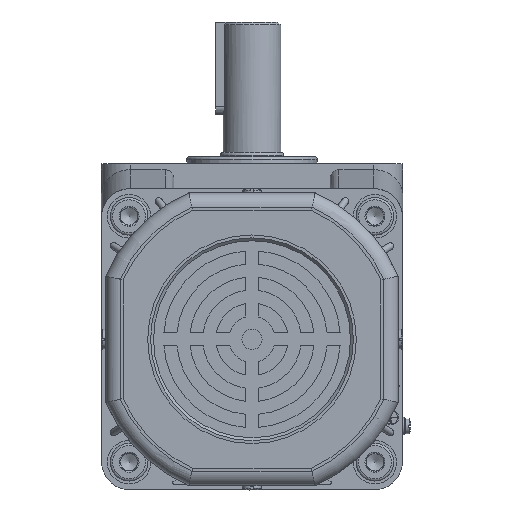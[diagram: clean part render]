
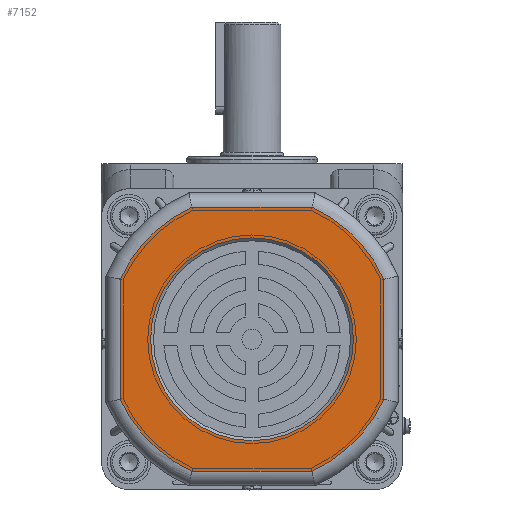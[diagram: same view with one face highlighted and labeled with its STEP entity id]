
A CAD part, left-side view. The second image highlights one B-rep face of the part: STEP entity #7152.
In plain terms, the highlighted planar face has unit normal (-1, 0, 0).
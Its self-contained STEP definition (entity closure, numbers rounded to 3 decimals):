
#1663=FACE_BOUND('',#10991,.T.);
#1664=FACE_BOUND('',#10992,.T.);
#2758=PLANE('',#30957);
#3690=LINE('',#43442,#5370);
#3691=LINE('',#43458,#5371);
#3694=LINE('',#43510,#5374);
#3695=LINE('',#43526,#5375);
#5370=VECTOR('',#35044,1.);
#5371=VECTOR('',#35047,1.);
#5374=VECTOR('',#35064,1.);
#5375=VECTOR('',#35067,1.);
#7152=ADVANCED_FACE('',(#1663,#1664),#2758,.F.);
#10991=EDGE_LOOP('',(#14809));
#10992=EDGE_LOOP('',(#14810,#14811,#14812,#14813,#14814,#14815,#14816,#14817));
#14809=ORIENTED_EDGE('',*,*,#24756,.T.);
#14810=ORIENTED_EDGE('',*,*,#24766,.T.);
#14811=ORIENTED_EDGE('',*,*,#24761,.T.);
#14812=ORIENTED_EDGE('',*,*,#24768,.T.);
#14813=ORIENTED_EDGE('',*,*,#24774,.T.);
#14814=ORIENTED_EDGE('',*,*,#24780,.T.);
#14815=ORIENTED_EDGE('',*,*,#24782,.T.);
#14816=ORIENTED_EDGE('',*,*,#24778,.T.);
#14817=ORIENTED_EDGE('',*,*,#24772,.T.);
#21632=VERTEX_POINT('',#43387);
#21637=VERTEX_POINT('',#43409);
#21638=VERTEX_POINT('',#43411);
#21640=VERTEX_POINT('',#43439);
#21643=VERTEX_POINT('',#43457);
#21644=VERTEX_POINT('',#43473);
#21647=VERTEX_POINT('',#43491);
#21648=VERTEX_POINT('',#43507);
#21651=VERTEX_POINT('',#43525);
#24756=EDGE_CURVE('',#21632,#21632,#28736,.T.);
#24761=EDGE_CURVE('',#21638,#21637,#28740,.T.);
#24766=EDGE_CURVE('',#21640,#21638,#3690,.T.);
#24768=EDGE_CURVE('',#21637,#21643,#3691,.T.);
#24772=EDGE_CURVE('',#21644,#21640,#28743,.T.);
#24774=EDGE_CURVE('',#21643,#21647,#28744,.T.);
#24778=EDGE_CURVE('',#21648,#21644,#3694,.T.);
#24780=EDGE_CURVE('',#21647,#21651,#3695,.T.);
#24782=EDGE_CURVE('',#21651,#21648,#28746,.T.);
#28736=CIRCLE('',#30695,35.);
#28740=CIRCLE('',#30701,50.);
#28743=CIRCLE('',#30707,50.);
#28744=CIRCLE('',#30709,50.);
#28746=CIRCLE('',#30714,50.);
#30695=AXIS2_PLACEMENT_3D('',#43386,#35025,#35026);
#30701=AXIS2_PLACEMENT_3D('',#43410,#35037,#35038);
#30707=AXIS2_PLACEMENT_3D('',#43476,#35053,#35054);
#30709=AXIS2_PLACEMENT_3D('',#43492,#35057,#35058);
#30714=AXIS2_PLACEMENT_3D('',#43529,#35071,#35072);
#30957=AXIS2_PLACEMENT_3D('',#44278,#35749,#35750);
#35025=DIRECTION('',(1.,0.,0.));
#35026=DIRECTION('',(0.,-1.,0.));
#35037=DIRECTION('',(-1.,0.,0.));
#35038=DIRECTION('',(0.,0.,1.));
#35044=DIRECTION('',(0.,-1.,0.));
#35047=DIRECTION('',(0.,0.,1.));
#35053=DIRECTION('',(-1.,0.,0.));
#35054=DIRECTION('',(0.,0.,1.));
#35057=DIRECTION('',(-1.,0.,0.));
#35058=DIRECTION('',(0.,0.,1.));
#35064=DIRECTION('',(0.,0.,-1.));
#35067=DIRECTION('',(0.,1.,0.));
#35071=DIRECTION('',(-1.,0.,0.));
#35072=DIRECTION('',(0.,0.,1.));
#35749=DIRECTION('',(1.,0.,0.));
#35750=DIRECTION('',(0.,0.,1.));
#43386=CARTESIAN_POINT('',(-227.8,-120.671,-58.491));
#43387=CARTESIAN_POINT('',(-227.8,-155.671,-58.491));
#43409=CARTESIAN_POINT('',(-227.8,-166.171,-79.221));
#43410=CARTESIAN_POINT('',(-227.8,-120.671,-58.491));
#43411=CARTESIAN_POINT('',(-227.8,-141.402,-103.991));
#43439=CARTESIAN_POINT('',(-227.8,-99.941,-103.991));
#43442=CARTESIAN_POINT('',(-227.8,-142.46,-103.991));
#43457=CARTESIAN_POINT('',(-227.8,-166.171,-37.76));
#43458=CARTESIAN_POINT('',(-227.8,-166.171,-36.702));
#43473=CARTESIAN_POINT('',(-227.8,-75.171,-79.221));
#43476=CARTESIAN_POINT('',(-227.8,-120.671,-58.491));
#43491=CARTESIAN_POINT('',(-227.8,-141.402,-12.991));
#43492=CARTESIAN_POINT('',(-227.8,-120.671,-58.491));
#43507=CARTESIAN_POINT('',(-227.8,-75.171,-37.76));
#43510=CARTESIAN_POINT('',(-227.8,-75.171,-80.28));
#43525=CARTESIAN_POINT('',(-227.8,-99.941,-12.991));
#43526=CARTESIAN_POINT('',(-227.8,-98.882,-12.991));
#43529=CARTESIAN_POINT('',(-227.8,-120.671,-58.491));
#44278=CARTESIAN_POINT('',(-227.8,-120.671,-58.491));
